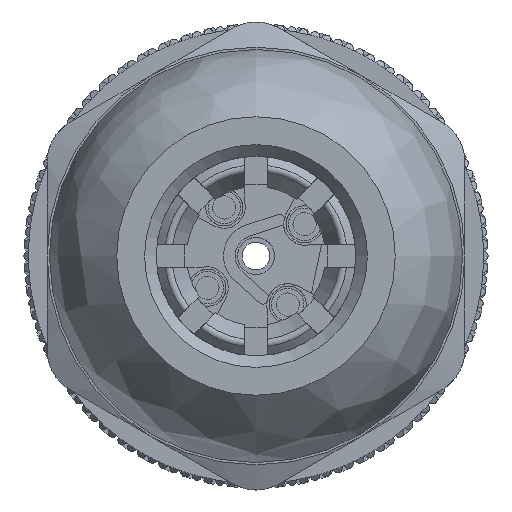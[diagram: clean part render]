
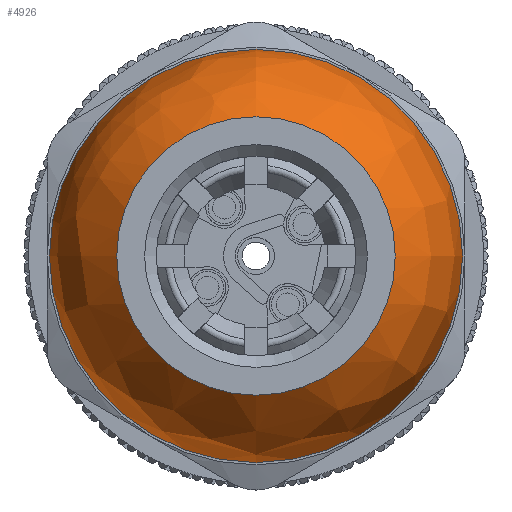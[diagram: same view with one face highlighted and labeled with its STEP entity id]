
A CAD part, front view. The second image highlights one B-rep face of the part: STEP entity #4926.
In plain terms, the highlighted free-form (B-spline) face has degree [3, 3] with [4, 7] control points.
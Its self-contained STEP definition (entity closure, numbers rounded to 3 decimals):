
#58=(
BOUNDED_SURFACE()
B_SPLINE_SURFACE(3,3,((#53860,#53861,#53862,#53863,#53864,#53865,#53866),
(#53867,#53868,#53869,#53870,#53871,#53872,#53873),(#53874,#53875,#53876,
#53877,#53878,#53879,#53880),(#53881,#53882,#53883,#53884,#53885,#53886,
#53887)),.UNSPECIFIED.,.F.,.T.,.F.)
B_SPLINE_SURFACE_WITH_KNOTS((4,4),(1,3,3,3,1),(0.,1.),(-0.5,0.,0.5,1.,1.5),
 .UNSPECIFIED.)
GEOMETRIC_REPRESENTATION_ITEM()
RATIONAL_B_SPLINE_SURFACE(((1.,0.333,0.333,1.,0.333,
0.333,1.),(0.923,0.308,0.308,
0.923,0.308,0.308,0.923),
(0.923,0.308,0.308,0.923,
0.308,0.308,0.923),(1.,0.333,
0.333,1.,0.333,0.333,1.)))
REPRESENTATION_ITEM('')
SURFACE()
);
#1297=FACE_BOUND('',#7882,.T.);
#1298=FACE_BOUND('',#7883,.T.);
#4926=ADVANCED_FACE('',(#1297,#1298),#58,.T.);
#7882=EDGE_LOOP('',(#14761));
#7883=EDGE_LOOP('',(#14762));
#9149=CIRCLE('',#22891,8.9);
#9150=CIRCLE('',#22893,6.);
#14761=ORIENTED_EDGE('',*,*,#19808,.F.);
#14762=ORIENTED_EDGE('',*,*,#19809,.T.);
#16897=VERTEX_POINT('',#53856);
#16898=VERTEX_POINT('',#53859);
#19808=EDGE_CURVE('',#16897,#16897,#9149,.T.);
#19809=EDGE_CURVE('',#16898,#16898,#9150,.T.);
#22891=AXIS2_PLACEMENT_3D('',#53855,#28822,#28823);
#22893=AXIS2_PLACEMENT_3D('',#53858,#28826,#28827);
#28822=DIRECTION('',(0.,1.,0.));
#28823=DIRECTION('',(0.,0.,1.));
#28826=DIRECTION('',(0.,1.,0.));
#28827=DIRECTION('',(0.,0.,1.));
#53855=CARTESIAN_POINT('',(0.,-49.,0.));
#53856=CARTESIAN_POINT('',(0.,-49.,8.9));
#53858=CARTESIAN_POINT('',(0.,-54.5,0.));
#53859=CARTESIAN_POINT('',(0.,-54.5,6.));
#53860=CARTESIAN_POINT('',(-8.9,-49.,0.));
#53861=CARTESIAN_POINT('',(-8.9,-49.,17.8));
#53862=CARTESIAN_POINT('',(8.9,-49.,17.8));
#53863=CARTESIAN_POINT('',(8.9,-49.,0.));
#53864=CARTESIAN_POINT('',(8.9,-49.,-17.8));
#53865=CARTESIAN_POINT('',(-8.9,-49.,-17.8));
#53866=CARTESIAN_POINT('',(-8.9,-49.,0.));
#53867=CARTESIAN_POINT('',(-8.9,-51.245,0.));
#53868=CARTESIAN_POINT('',(-8.9,-51.245,17.8));
#53869=CARTESIAN_POINT('',(8.9,-51.245,17.8));
#53870=CARTESIAN_POINT('',(8.9,-51.245,0.));
#53871=CARTESIAN_POINT('',(8.9,-51.245,-17.8));
#53872=CARTESIAN_POINT('',(-8.9,-51.245,-17.8));
#53873=CARTESIAN_POINT('',(-8.9,-51.245,0.));
#53874=CARTESIAN_POINT('',(-7.853,-53.232,0.));
#53875=CARTESIAN_POINT('',(-7.853,-53.232,15.706));
#53876=CARTESIAN_POINT('',(7.853,-53.232,15.706));
#53877=CARTESIAN_POINT('',(7.853,-53.232,0.));
#53878=CARTESIAN_POINT('',(7.853,-53.232,-15.705));
#53879=CARTESIAN_POINT('',(-7.853,-53.232,-15.705));
#53880=CARTESIAN_POINT('',(-7.853,-53.232,0.));
#53881=CARTESIAN_POINT('',(-6.,-54.5,0.));
#53882=CARTESIAN_POINT('',(-6.,-54.5,12.));
#53883=CARTESIAN_POINT('',(6.,-54.5,12.));
#53884=CARTESIAN_POINT('',(6.,-54.5,0.));
#53885=CARTESIAN_POINT('',(6.,-54.5,-12.));
#53886=CARTESIAN_POINT('',(-6.,-54.5,-12.));
#53887=CARTESIAN_POINT('',(-6.,-54.5,0.));
